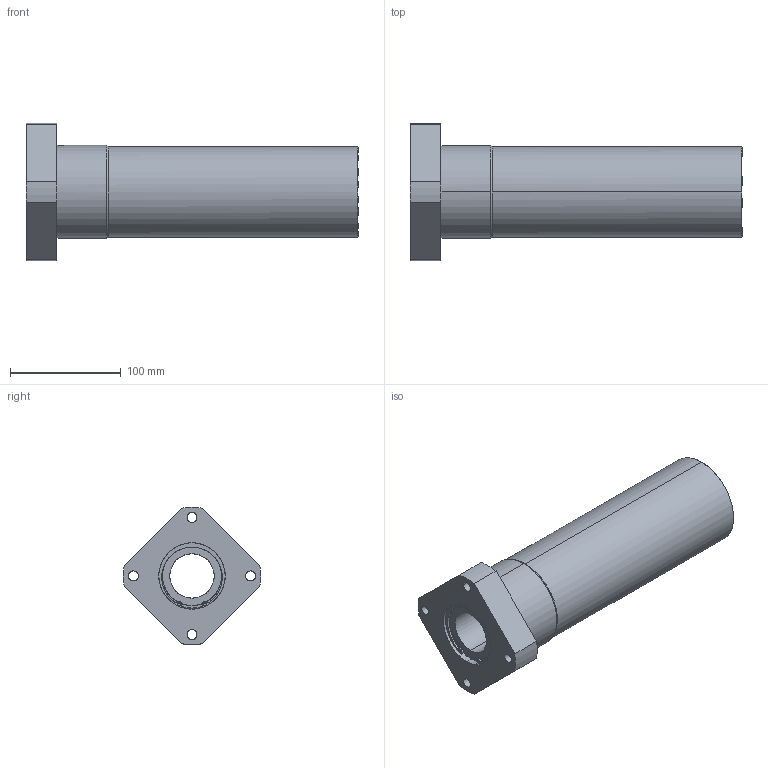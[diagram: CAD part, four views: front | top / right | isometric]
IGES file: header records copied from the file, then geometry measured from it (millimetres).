
Global section: file name: No Iges File Name specified; native system: AutoDesk Inventor R11.0; preprocessor: AutoDesk Inventor Iges Exporter R11.0; author: No Author specified; organization: No Organization specified; date: 20170922.135421; units: millimetre
Bounding box: 300 x 123.84 x 123.92 mm (x, y, z)
Surface area: 151553.2 mm2 (no closed solid volume)
Topology: 0 solids, 0 shells, 130 faces, 928 edges, 928 vertices
Faces by surface type: bspline 130
